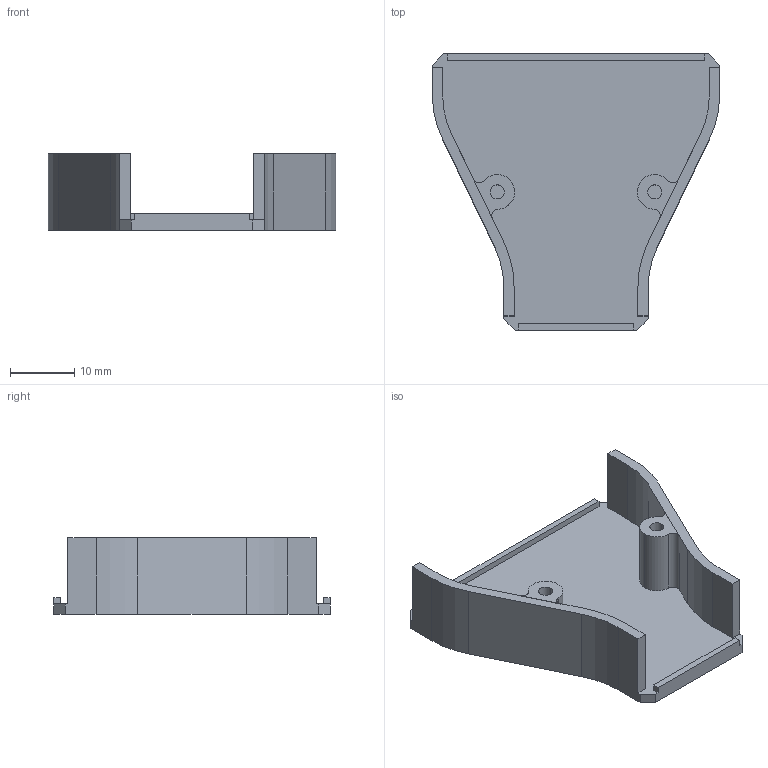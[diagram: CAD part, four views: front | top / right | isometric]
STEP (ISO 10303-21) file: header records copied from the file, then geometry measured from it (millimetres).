
FILE_DESCRIPTION(('CATIA V5 STEP Exchange'),'2;1');
FILE_NAME('X:\XDrive\Homepage\homes\techecke\elektronik\download\Unterteil.stp','2024-01-07T22:18:52+00:00',('none'),('none'),'CATIA Version 5 Release 19 SP 2 (IN-10)','CATIA V5 STEP AP203','none');
FILE_SCHEMA(('CONFIG_CONTROL_DESIGN'));
Length unit declared in the file: millimetre
Products named in the file (1): Unterteil
Bounding box: 44.7 x 43 x 11.9 mm (x, y, z)
Volume: 4126.7 mm3; surface area: 5296.4 mm2
Topology: 1 solids, 1 shells, 58 faces, 162 edges, 108 vertices
Faces by surface type: plane 38, cylinder 20
Entity records: 1819 total; most frequent: CARTESIAN_POINT 328, ORIENTED_EDGE 324, DIRECTION 254, EDGE_CURVE 162, VECTOR 122, LINE 122, VERTEX_POINT 108, AXIS2_PLACEMENT_3D 86
